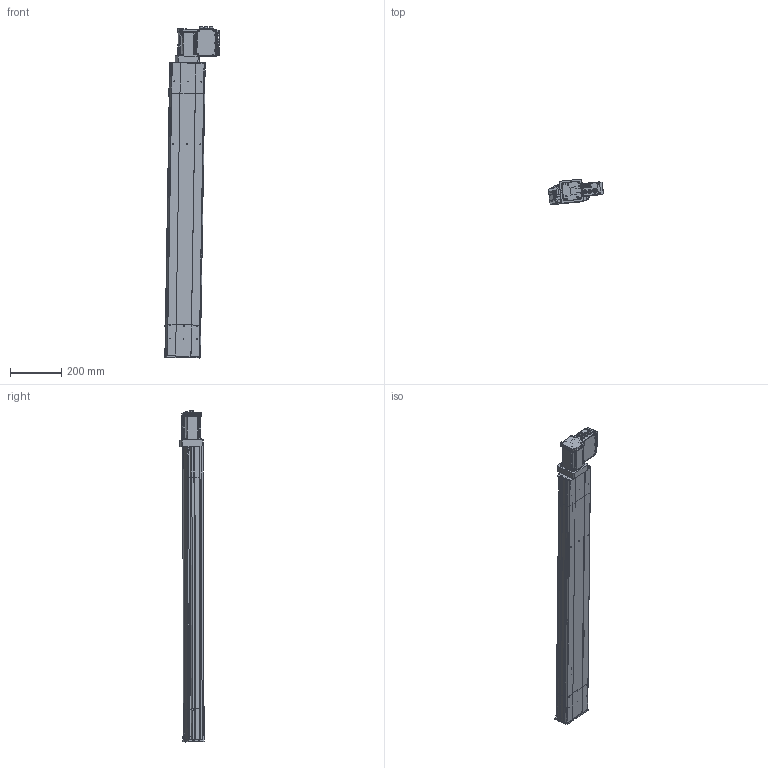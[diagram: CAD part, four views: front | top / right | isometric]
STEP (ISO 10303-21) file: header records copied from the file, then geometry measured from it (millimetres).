
FILE_DESCRIPTION (( 'STEP AP203' ), '1' );
FILE_NAME ('D14 TSH M4 MD L10 S900.STEP', '2012-10-08T07:56:02', ( '' ), ( '' ), 'SwSTEP 2.0', 'SolidWorks 2010', '' );
FILE_SCHEMA (( 'CONFIG_CONTROL_DESIGN' ));
Length unit declared in the file: millimetre
Products named in the file (22): Moteur_2; T犨e contre le moteur_2; Sub D 9cts_2; Tôle latérale_2; Connecteur rond D12 4cts_2; plaque de  bout tail D14_Default_2; couvercle D14 head_Default_2; Pièce902; D14 TSH M4 MD L10 S900; corp head D14_Default_2; plaque de  bout head D14 MD_Default_2; Plaque racord D10.2_Default_2; corpl tail D14_Default_2; T犨e fond_2; Connecteur rond D10 3cts_2; Tôle Arrière_2; Couvercle_2; Moteur 70BLDC90A_2; Colonnette_2; Radiateur_2; Vis TF 3 torkx_2; Pièce900
Assembly tree (49 placements, depth 3):
  D14 TSH M4 MD L10 S900
    Pièce902
    corp head D14_Default_2
    couvercle D14 head_Default_2  x2
    plaque de  bout head D14 MD_Default_2
    Plaque racord D10.2_Default_2
    corpl tail D14_Default_2
    plaque de  bout tail D14_Default_2
    Moteur_2
      Vis TF 3 torkx_2  x26
      Connecteur rond D10 3cts_2  x2
      Sub D 9cts_2
      Tôle latérale_2  x2
      Radiateur_2
      Moteur 70BLDC90A_2
      T犨e contre le moteur_2
      Colonnette_2
      Connecteur rond D12 4cts_2
      Couvercle_2
      Tôle Arrière_2
      T犨e fond_2
    Pièce900
Bounding box: 213.78 x 97.2 x 1291.01 mm (x, y, z)
Volume: 3875630.7 mm3; surface area: 1340115.6 mm2
Topology: 70 solids, 70 shells, 2391 faces, 6228 edges, 4107 vertices
Faces by surface type: plane 1275, cylinder 852, cone 134, bspline 130
Entity records: 63974 total; most frequent: CARTESIAN_POINT 20710, ORIENTED_EDGE 8414, DIRECTION 8094, EDGE_CURVE 4207, VERTEX_POINT 2781, VECTOR 2772, LINE 2772, AXIS2_PLACEMENT_3D 2661
